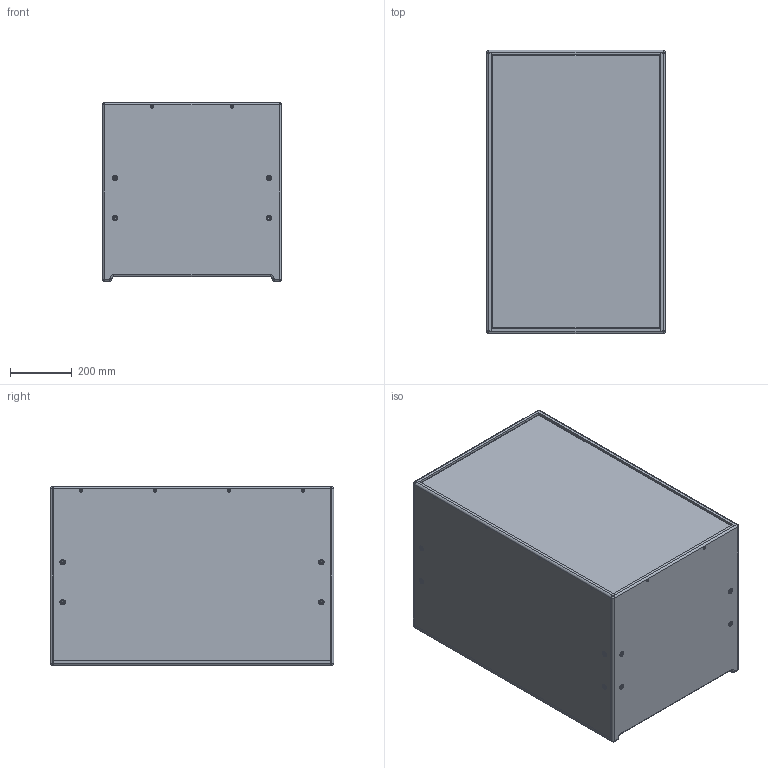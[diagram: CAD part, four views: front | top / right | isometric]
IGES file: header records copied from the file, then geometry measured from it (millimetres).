
Start section: SolidWorks IGES file using analytic representation for surfaces
Global section: file name: D:\Entwicklungen\Projekte aktuell\PS-Serie\Solid Top V5 - PS1F\WEB\PS1F.IGS; native system: SolidWorks 2009; preprocessor: SolidWorks 2009; author: Nico; date: 210706.124030; units: millimetre
Bounding box: 580 x 920 x 580 mm (x, y, z)
Volume: 32893364 mm3; surface area: 6000001.1 mm2
Topology: 56 solids, 57 shells, 4736 faces, 23954 edges, 21363 vertices
Faces by surface type: revolution 1904, bspline 1768, plane 1064
